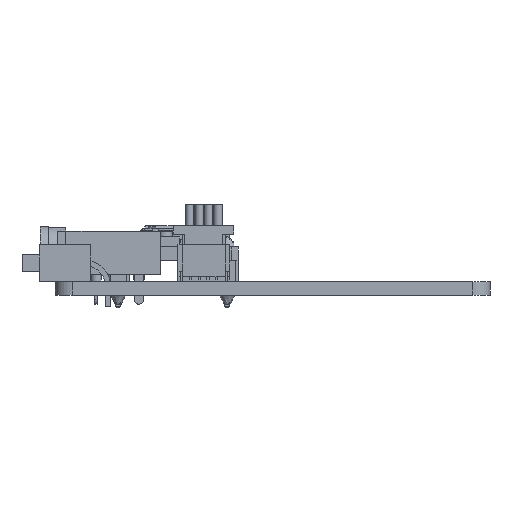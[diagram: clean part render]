
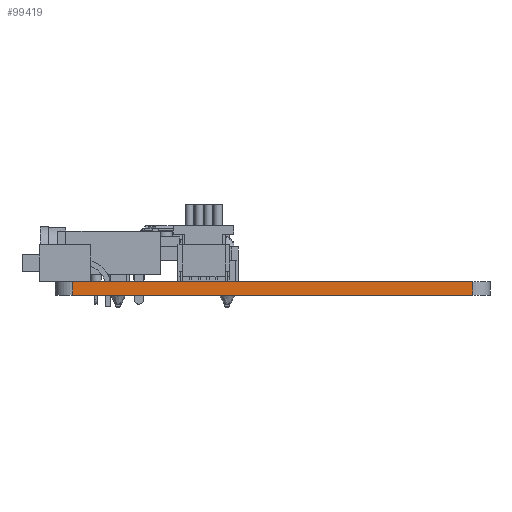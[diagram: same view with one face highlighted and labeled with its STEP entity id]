
A CAD part, left-side view. The second image highlights one B-rep face of the part: STEP entity #99419.
In plain terms, the highlighted planar face has unit normal (-1, 0, 0).
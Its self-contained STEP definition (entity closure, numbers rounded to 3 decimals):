
#95691 = PLANE('',#95692);
#95692 = AXIS2_PLACEMENT_3D('',#95693,#95694,#95695);
#95693 = CARTESIAN_POINT('',(112.01,-135.679,1.6));
#95694 = DIRECTION('',(-0.,-0.,-1.));
#95695 = DIRECTION('',(-1.,0.,0.));
#95745 = PLANE('',#95746);
#95746 = AXIS2_PLACEMENT_3D('',#95747,#95748,#95749);
#95747 = CARTESIAN_POINT('',(112.01,-135.679,0.));
#95748 = DIRECTION('',(-0.,-0.,-1.));
#95749 = DIRECTION('',(-1.,0.,0.));
#95958 = VERTEX_POINT('',#95959);
#95959 = CARTESIAN_POINT('',(76.23,-158.36,0.));
#95978 = CYLINDRICAL_SURFACE('',#95979,2.);
#95979 = AXIS2_PLACEMENT_3D('',#95980,#95981,#95982);
#95980 = CARTESIAN_POINT('',(78.23,-158.36,0.));
#95981 = DIRECTION('',(-0.,-0.,-1.));
#95982 = DIRECTION('',(1.,0.,-0.));
#95990 = EDGE_CURVE('',#95958,#95991,#95993,.T.);
#95991 = VERTEX_POINT('',#95992);
#95992 = CARTESIAN_POINT('',(76.23,-111.8,0.));
#95993 = SURFACE_CURVE('',#95994,(#95998,#96005),.PCURVE_S1.);
#95994 = LINE('',#95995,#95996);
#95995 = CARTESIAN_POINT('',(76.23,-158.36,0.));
#95996 = VECTOR('',#95997,1.);
#95997 = DIRECTION('',(0.,1.,0.));
#95998 = PCURVE('',#95745,#95999);
#95999 = DEFINITIONAL_REPRESENTATION('',(#96000),#96004);
#96000 = LINE('',#96001,#96002);
#96001 = CARTESIAN_POINT('',(35.78,-22.681));
#96002 = VECTOR('',#96003,1.);
#96003 = DIRECTION('',(0.,1.));
#96004 = ( GEOMETRIC_REPRESENTATION_CONTEXT(2) 
PARAMETRIC_REPRESENTATION_CONTEXT() REPRESENTATION_CONTEXT('2D SPACE',''
  ) );
#96005 = PCURVE('',#96006,#96011);
#96006 = PLANE('',#96007);
#96007 = AXIS2_PLACEMENT_3D('',#96008,#96009,#96010);
#96008 = CARTESIAN_POINT('',(76.23,-158.36,0.));
#96009 = DIRECTION('',(-1.,0.,0.));
#96010 = DIRECTION('',(0.,1.,0.));
#96011 = DEFINITIONAL_REPRESENTATION('',(#96012),#96016);
#96012 = LINE('',#96013,#96014);
#96013 = CARTESIAN_POINT('',(0.,0.));
#96014 = VECTOR('',#96015,1.);
#96015 = DIRECTION('',(1.,0.));
#96016 = ( GEOMETRIC_REPRESENTATION_CONTEXT(2) 
PARAMETRIC_REPRESENTATION_CONTEXT() REPRESENTATION_CONTEXT('2D SPACE',''
  ) );
#96039 = CYLINDRICAL_SURFACE('',#96040,2.);
#96040 = AXIS2_PLACEMENT_3D('',#96041,#96042,#96043);
#96041 = CARTESIAN_POINT('',(78.23,-111.8,0.));
#96042 = DIRECTION('',(-0.,-0.,-1.));
#96043 = DIRECTION('',(1.,0.,-0.));
#97771 = VERTEX_POINT('',#97772);
#97772 = CARTESIAN_POINT('',(76.23,-158.36,1.6));
#97798 = EDGE_CURVE('',#97771,#97799,#97801,.T.);
#97799 = VERTEX_POINT('',#97800);
#97800 = CARTESIAN_POINT('',(76.23,-111.8,1.6));
#97801 = SURFACE_CURVE('',#97802,(#97806,#97813),.PCURVE_S1.);
#97802 = LINE('',#97803,#97804);
#97803 = CARTESIAN_POINT('',(76.23,-158.36,1.6));
#97804 = VECTOR('',#97805,1.);
#97805 = DIRECTION('',(0.,1.,0.));
#97806 = PCURVE('',#95691,#97807);
#97807 = DEFINITIONAL_REPRESENTATION('',(#97808),#97812);
#97808 = LINE('',#97809,#97810);
#97809 = CARTESIAN_POINT('',(35.78,-22.681));
#97810 = VECTOR('',#97811,1.);
#97811 = DIRECTION('',(0.,1.));
#97812 = ( GEOMETRIC_REPRESENTATION_CONTEXT(2) 
PARAMETRIC_REPRESENTATION_CONTEXT() REPRESENTATION_CONTEXT('2D SPACE',''
  ) );
#97813 = PCURVE('',#96006,#97814);
#97814 = DEFINITIONAL_REPRESENTATION('',(#97815),#97819);
#97815 = LINE('',#97816,#97817);
#97816 = CARTESIAN_POINT('',(0.,-1.6));
#97817 = VECTOR('',#97818,1.);
#97818 = DIRECTION('',(1.,0.));
#97819 = ( GEOMETRIC_REPRESENTATION_CONTEXT(2) 
PARAMETRIC_REPRESENTATION_CONTEXT() REPRESENTATION_CONTEXT('2D SPACE',''
  ) );
#99369 = EDGE_CURVE('',#95958,#97771,#99370,.T.);
#99370 = SURFACE_CURVE('',#99371,(#99375,#99382),.PCURVE_S1.);
#99371 = LINE('',#99372,#99373);
#99372 = CARTESIAN_POINT('',(76.23,-158.36,0.));
#99373 = VECTOR('',#99374,1.);
#99374 = DIRECTION('',(0.,0.,1.));
#99375 = PCURVE('',#95978,#99376);
#99376 = DEFINITIONAL_REPRESENTATION('',(#99377),#99381);
#99377 = LINE('',#99378,#99379);
#99378 = CARTESIAN_POINT('',(-3.142,0.));
#99379 = VECTOR('',#99380,1.);
#99380 = DIRECTION('',(-0.,-1.));
#99381 = ( GEOMETRIC_REPRESENTATION_CONTEXT(2) 
PARAMETRIC_REPRESENTATION_CONTEXT() REPRESENTATION_CONTEXT('2D SPACE',''
  ) );
#99382 = PCURVE('',#96006,#99383);
#99383 = DEFINITIONAL_REPRESENTATION('',(#99384),#99388);
#99384 = LINE('',#99385,#99386);
#99385 = CARTESIAN_POINT('',(0.,0.));
#99386 = VECTOR('',#99387,1.);
#99387 = DIRECTION('',(0.,-1.));
#99388 = ( GEOMETRIC_REPRESENTATION_CONTEXT(2) 
PARAMETRIC_REPRESENTATION_CONTEXT() REPRESENTATION_CONTEXT('2D SPACE',''
  ) );
#99419 = ADVANCED_FACE('',(#99420),#96006,.T.);
#99420 = FACE_BOUND('',#99421,.T.);
#99421 = EDGE_LOOP('',(#99422,#99423,#99424,#99445));
#99422 = ORIENTED_EDGE('',*,*,#99369,.T.);
#99423 = ORIENTED_EDGE('',*,*,#97798,.T.);
#99424 = ORIENTED_EDGE('',*,*,#99425,.F.);
#99425 = EDGE_CURVE('',#95991,#97799,#99426,.T.);
#99426 = SURFACE_CURVE('',#99427,(#99431,#99438),.PCURVE_S1.);
#99427 = LINE('',#99428,#99429);
#99428 = CARTESIAN_POINT('',(76.23,-111.8,0.));
#99429 = VECTOR('',#99430,1.);
#99430 = DIRECTION('',(0.,0.,1.));
#99431 = PCURVE('',#96006,#99432);
#99432 = DEFINITIONAL_REPRESENTATION('',(#99433),#99437);
#99433 = LINE('',#99434,#99435);
#99434 = CARTESIAN_POINT('',(46.56,0.));
#99435 = VECTOR('',#99436,1.);
#99436 = DIRECTION('',(0.,-1.));
#99437 = ( GEOMETRIC_REPRESENTATION_CONTEXT(2) 
PARAMETRIC_REPRESENTATION_CONTEXT() REPRESENTATION_CONTEXT('2D SPACE',''
  ) );
#99438 = PCURVE('',#96039,#99439);
#99439 = DEFINITIONAL_REPRESENTATION('',(#99440),#99444);
#99440 = LINE('',#99441,#99442);
#99441 = CARTESIAN_POINT('',(-3.142,0.));
#99442 = VECTOR('',#99443,1.);
#99443 = DIRECTION('',(-0.,-1.));
#99444 = ( GEOMETRIC_REPRESENTATION_CONTEXT(2) 
PARAMETRIC_REPRESENTATION_CONTEXT() REPRESENTATION_CONTEXT('2D SPACE',''
  ) );
#99445 = ORIENTED_EDGE('',*,*,#95990,.F.);
